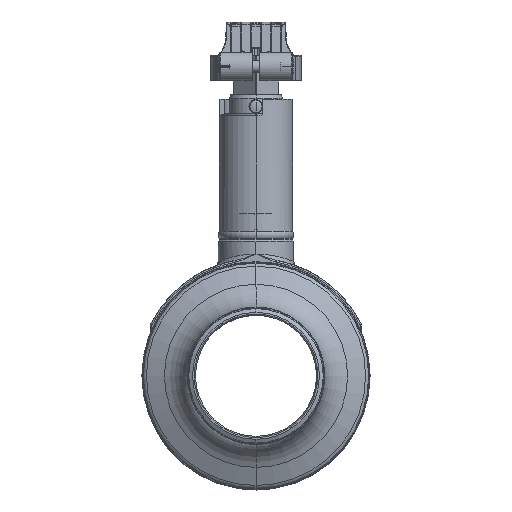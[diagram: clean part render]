
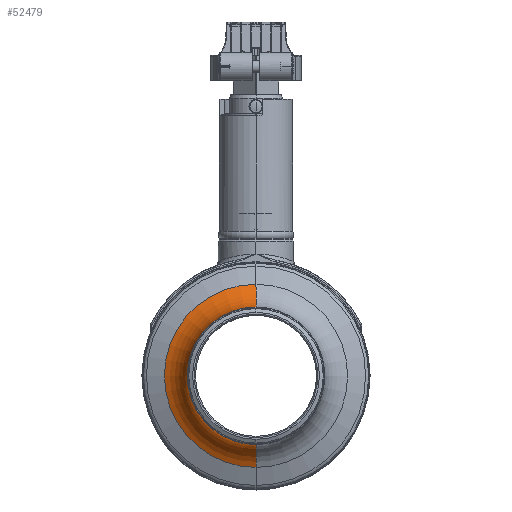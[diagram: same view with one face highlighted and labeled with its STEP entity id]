
A CAD part, left-side view. The second image highlights one B-rep face of the part: STEP entity #52479.
In plain terms, the highlighted toroidal (fillet/blend) face has major radius 70.5 mm and minor radius 25 mm.
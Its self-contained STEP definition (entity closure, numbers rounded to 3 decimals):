
#18140=CARTESIAN_POINT('',(-85.413,0.,0.));
#18141=DIRECTION('',(1.,0.,0.));
#18142=DIRECTION('',(0.,0.,-1.));
#18143=AXIS2_PLACEMENT_3D('',#18140,#18141,#18142);
#18145=CARTESIAN_POINT('',(-85.413,0.,-70.5));
#18146=DIRECTION('',(0.,1.,0.));
#18147=DIRECTION('',(0.,0.,1.));
#18148=AXIS2_PLACEMENT_3D('',#18145,#18146,#18147);
#18150=CARTESIAN_POINT('',(-85.413,0.,70.5));
#18151=DIRECTION('',(0.,-1.,0.));
#18152=DIRECTION('',(0.,0.,-1.));
#18153=AXIS2_PLACEMENT_3D('',#18150,#18151,#18152);
#18244=CARTESIAN_POINT('',(-62.474,0.,0.));
#18245=DIRECTION('',(1.,0.,0.));
#18246=DIRECTION('',(0.,0.,-1.));
#18247=AXIS2_PLACEMENT_3D('',#18244,#18245,#18246);
#18920=CARTESIAN_POINT('',(-62.474,0.,
60.56));
#18921=VERTEX_POINT('',#18920);
#18922=CARTESIAN_POINT('',(-62.474,0.,-60.56));
#18923=VERTEX_POINT('',#18922);
#18924=CARTESIAN_POINT('',(-85.413,0.,-45.5));
#18925=CARTESIAN_POINT('',(-85.413,0.,45.5));
#18926=VERTEX_POINT('',#18924);
#18927=VERTEX_POINT('',#18925);
#52465=CARTESIAN_POINT('',(-85.413,0.,0.));
#52466=DIRECTION('',(-1.,0.,0.));
#52467=DIRECTION('',(0.,0.,-1.));
#52468=AXIS2_PLACEMENT_3D('',#52465,#52466,#52467);
#52469=TOROIDAL_SURFACE('',#52468,70.5,25.);
#52470=ORIENTED_EDGE('',*,*,#52447,.F.);
#52472=ORIENTED_EDGE('',*,*,#52471,.T.);
#52474=ORIENTED_EDGE('',*,*,#52473,.T.);
#52476=ORIENTED_EDGE('',*,*,#52475,.F.);
#52477=EDGE_LOOP('',(#52470,#52472,#52474,#52476));
#52478=FACE_OUTER_BOUND('',#52477,.F.);
#18144=CIRCLE('',#18143,45.5);
#18149=CIRCLE('',#18148,25.);
#18154=CIRCLE('',#18153,25.);
#18248=CIRCLE('',#18247,60.56);
#52447=EDGE_CURVE('',#18926,#18927,#18144,.T.);
#52471=EDGE_CURVE('',#18926,#18923,#18149,.T.);
#52473=EDGE_CURVE('',#18923,#18921,#18248,.T.);
#52475=EDGE_CURVE('',#18927,#18921,#18154,.T.);
#52479=ADVANCED_FACE('',(#52478),#52469,.F.);
